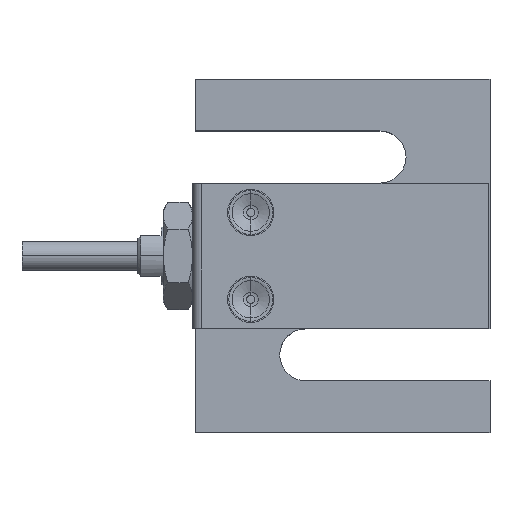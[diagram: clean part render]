
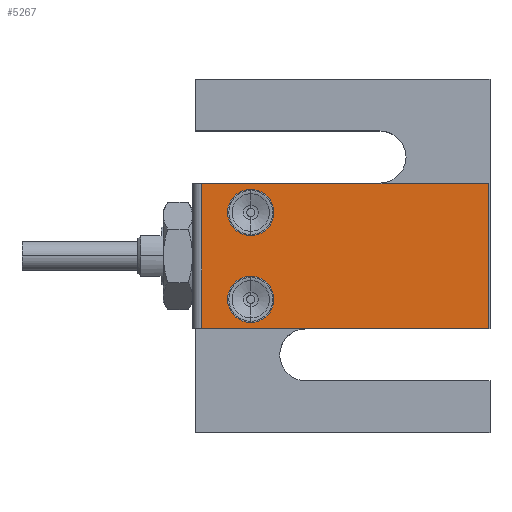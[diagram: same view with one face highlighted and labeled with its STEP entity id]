
A CAD part, top view. The second image highlights one B-rep face of the part: STEP entity #5267.
In plain terms, the highlighted planar face has unit normal (0, 0, 1) as drawn and (0, 0, -1) by its records, which use the part's own axes.
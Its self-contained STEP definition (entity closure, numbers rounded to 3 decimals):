
#10 = VERTEX_POINT ( 'NONE', #766 ) ;
#608 = EDGE_CURVE ( 'NONE', #981, #972, #2164, .T. ) ;
#616 = EDGE_CURVE ( 'NONE', #4423, #4440, #2177, .T. ) ;
#629 = EDGE_CURVE ( 'NONE', #972, #981, #2198, .T. ) ;
#630 = EDGE_CURVE ( 'NONE', #4440, #4423, #2199, .T. ) ;
#631 = EDGE_CURVE ( 'NONE', #10, #987, #1563, .T. ) ;
#632 = EDGE_CURVE ( 'NONE', #10, #4381, #1574, .T. ) ;
#633 = EDGE_CURVE ( 'NONE', #4381, #4422, #1569, .T. ) ;
#634 = EDGE_CURVE ( 'NONE', #987, #4422, #1580, .T. ) ;
#766 = CARTESIAN_POINT ( 'NONE',  ( 24., 25., -7.5 ) ) ;
#972 = VERTEX_POINT ( 'NONE', #1953 ) ;
#981 = VERTEX_POINT ( 'NONE', #3123 ) ;
#987 = VERTEX_POINT ( 'NONE', #3129 ) ;
#1502 = CARTESIAN_POINT ( 'NONE',  ( 15.5, 5., -7.5 ) ) ;
#1503 = DIRECTION ( 'NONE',  ( 0., 0., 1. ) ) ;
#1504 = DIRECTION ( 'NONE',  ( 1., 0., 0. ) ) ;
#1526 = CARTESIAN_POINT ( 'NONE',  ( 15.5, 20., -7.5 ) ) ;
#1527 = DIRECTION ( 'NONE',  ( 0., 0., 1. ) ) ;
#1528 = DIRECTION ( 'NONE',  ( 1., 0., 0. ) ) ;
#1563 = LINE ( 'NONE', #1564, #2201 ) ;
#1564 = CARTESIAN_POINT ( 'NONE',  ( -25.5, 25., -7.5 ) ) ;
#1565 = CARTESIAN_POINT ( 'NONE',  ( 15.5, 5., -7.5 ) ) ;
#1566 = DIRECTION ( 'NONE',  ( 0., 0., 1. ) ) ;
#1567 = DIRECTION ( 'NONE',  ( 1., 0., 0. ) ) ;
#1569 = LINE ( 'NONE', #1578, #2196 ) ;
#1570 = CARTESIAN_POINT ( 'NONE',  ( 15.5, 20., -7.5 ) ) ;
#1571 = DIRECTION ( 'NONE',  ( 0., 0., 1. ) ) ;
#1572 = DIRECTION ( 'NONE',  ( 1., 0., 0. ) ) ;
#1573 = DIRECTION ( 'NONE',  ( -1., 0., 0. ) ) ;
#1574 = LINE ( 'NONE', #1576, #2203 ) ;
#1576 = CARTESIAN_POINT ( 'NONE',  ( 24., 25., -7.5 ) ) ;
#1577 = DIRECTION ( 'NONE',  ( 0., -1., 0. ) ) ;
#1578 = CARTESIAN_POINT ( 'NONE',  ( -25.5, 0., -7.5 ) ) ;
#1579 = DIRECTION ( 'NONE',  ( -1., 0., 0. ) ) ;
#1580 = LINE ( 'NONE', #1581, #2205 ) ;
#1581 = CARTESIAN_POINT ( 'NONE',  ( -25.5, 25., -7.5 ) ) ;
#1582 = DIRECTION ( 'NONE',  ( 0., -1., 0. ) ) ;
#1953 = CARTESIAN_POINT ( 'NONE',  ( 19.5, 5., -7.5 ) ) ;
#2164 = CIRCLE ( 'NONE', #2170, 4. ) ;
#2170 = AXIS2_PLACEMENT_3D ( 'NONE', #1502, #1503, #1504 ) ;
#2177 = CIRCLE ( 'NONE', #2182, 4. ) ;
#2182 = AXIS2_PLACEMENT_3D ( 'NONE', #1526, #1527, #1528 ) ;
#2196 = VECTOR ( 'NONE', #1579, 1000. ) ;
#2198 = CIRCLE ( 'NONE', #2200, 4. ) ;
#2199 = CIRCLE ( 'NONE', #2202, 4. ) ;
#2200 = AXIS2_PLACEMENT_3D ( 'NONE', #1565, #1566, #1567 ) ;
#2201 = VECTOR ( 'NONE', #1573, 1000. ) ;
#2202 = AXIS2_PLACEMENT_3D ( 'NONE', #1570, #1571, #1572 ) ;
#2203 = VECTOR ( 'NONE', #1577, 1000. ) ;
#2205 = VECTOR ( 'NONE', #1582, 1000. ) ;
#2588 = ORIENTED_EDGE ( 'NONE', *, *, #629, .T. ) ;
#2589 = ORIENTED_EDGE ( 'NONE', *, *, #608, .T. ) ;
#2590 = ORIENTED_EDGE ( 'NONE', *, *, #630, .T. ) ;
#2591 = ORIENTED_EDGE ( 'NONE', *, *, #616, .T. ) ;
#2592 = ORIENTED_EDGE ( 'NONE', *, *, #631, .F. ) ;
#2593 = ORIENTED_EDGE ( 'NONE', *, *, #632, .T. ) ;
#2594 = ORIENTED_EDGE ( 'NONE', *, *, #633, .T. ) ;
#2595 = ORIENTED_EDGE ( 'NONE', *, *, #634, .F. ) ;
#3123 = CARTESIAN_POINT ( 'NONE',  ( 11.5, 5., -7.5 ) ) ;
#3129 = CARTESIAN_POINT ( 'NONE',  ( -25.5, 25., -7.5 ) ) ;
#3164 = CARTESIAN_POINT ( 'NONE',  ( 24., 0., -7.5 ) ) ;
#3209 = CARTESIAN_POINT ( 'NONE',  ( -25.5, 0., -7.5 ) ) ;
#3210 = CARTESIAN_POINT ( 'NONE',  ( 11.5, 20., -7.5 ) ) ;
#3227 = CARTESIAN_POINT ( 'NONE',  ( 19.5, 20., -7.5 ) ) ;
#4040 = FACE_BOUND ( 'NONE', #4642, .T. ) ;
#4043 = DIRECTION ( 'NONE',  ( 0., 0., 1. ) ) ;
#4046 = FACE_BOUND ( 'NONE', #4635, .T. ) ;
#4047 = CARTESIAN_POINT ( 'NONE',  ( -25.5, 25., -7.5 ) ) ;
#4049 = FACE_OUTER_BOUND ( 'NONE', #4644, .T. ) ;
#4050 = PLANE ( 'NONE',  #4248 ) ;
#4051 = DIRECTION ( 'NONE',  ( 1., 0., 0. ) ) ;
#4248 = AXIS2_PLACEMENT_3D ( 'NONE', #4047, #4043, #4051 ) ;
#4381 = VERTEX_POINT ( 'NONE', #3164 ) ;
#4422 = VERTEX_POINT ( 'NONE', #3209 ) ;
#4423 = VERTEX_POINT ( 'NONE', #3210 ) ;
#4440 = VERTEX_POINT ( 'NONE', #3227 ) ;
#4635 = EDGE_LOOP ( 'NONE', ( #2588, #2589 ) ) ;
#4642 = EDGE_LOOP ( 'NONE', ( #2590, #2591 ) ) ;
#4644 = EDGE_LOOP ( 'NONE', ( #2592, #2593, #2594, #2595 ) ) ;
#5267 = ADVANCED_FACE ( 'NONE', ( #4046, #4040, #4049 ), #4050, .F. ) ;
